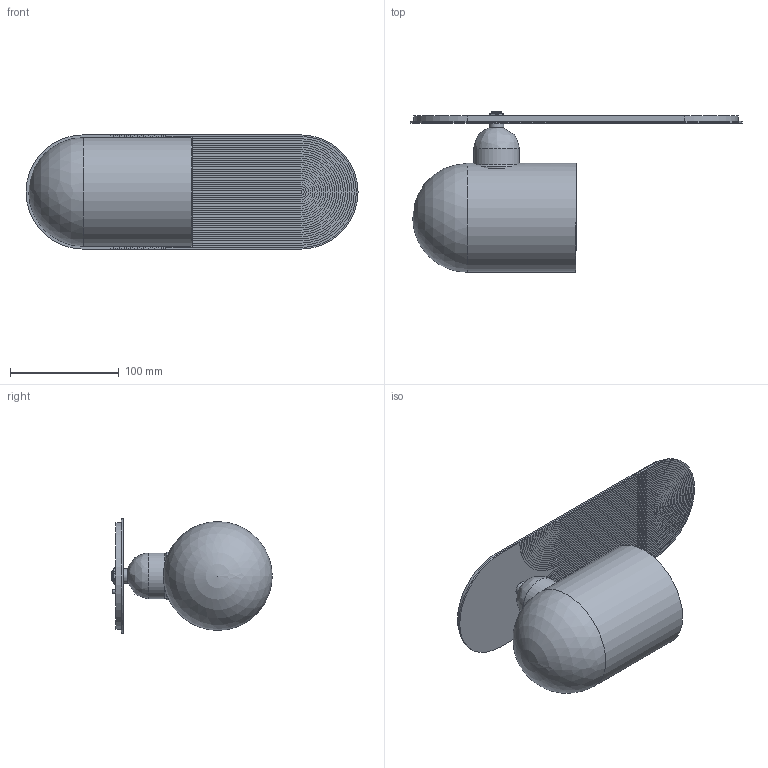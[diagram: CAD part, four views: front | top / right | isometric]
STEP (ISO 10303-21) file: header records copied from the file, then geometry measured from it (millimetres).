
FILE_DESCRIPTION(/* description */ (''),/* implementation_level */ '2;1');
FILE_NAME(/* name */ 'B146_KYOTO Odyssey Wall Scone.stp',/* time_stamp */ '2024-03-26T15:25:20+01:00',/* author */ ('Lukasz'),/* organization */ (''),/* preprocessor_version */ 'ST-DEVELOPER v20',/* originating_system */ 'Autodesk Inventor 2024',/* authorisation */ '');
FILE_SCHEMA (('AUTOMOTIVE_DESIGN { 1 0 10303 214 3 1 1 }'));
Length unit declared in the file: millimetre
Products named in the file (1): B146_KYOTO Odyssey Wall Scone
Bounding box: 305 x 147.35 x 105 mm (x, y, z)
Volume: 1274844.9 mm3; surface area: 185372.4 mm2
Topology: 10 solids, 10 shells, 224 faces, 597 edges, 393 vertices
Faces by surface type: plane 115, cylinder 93, cone 12, bspline 3, sphere 1
Full cylindrical faces by diameter (mm): 7 x1, 9 x1, 10 x1, 13 x1, 37 x1, 42 x1, 44 x1, 100 x1
Entity records: 8674 total; most frequent: CARTESIAN_POINT 2638, DIRECTION 1221, ORIENTED_EDGE 1192, EDGE_CURVE 596, AXIS2_PLACEMENT_3D 429, VERTEX_POINT 393, LINE 363, VECTOR 363
